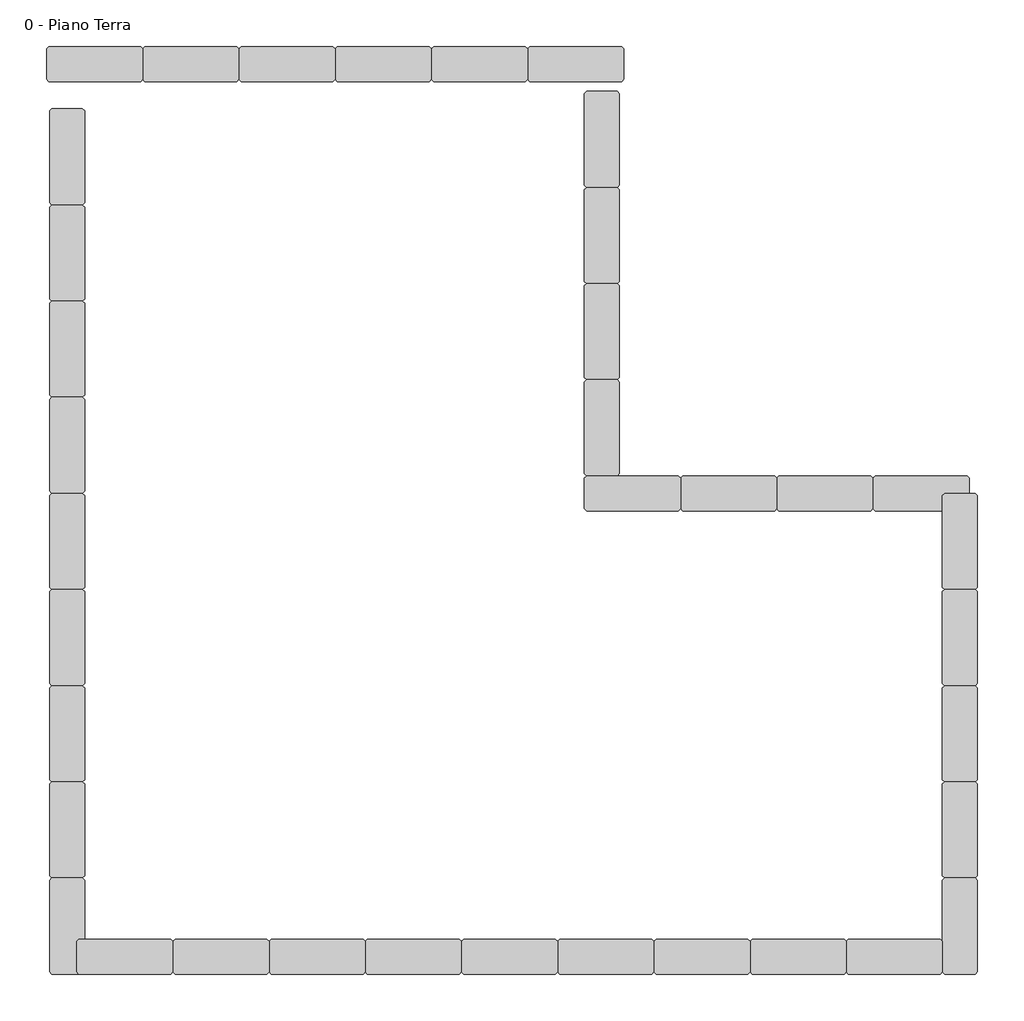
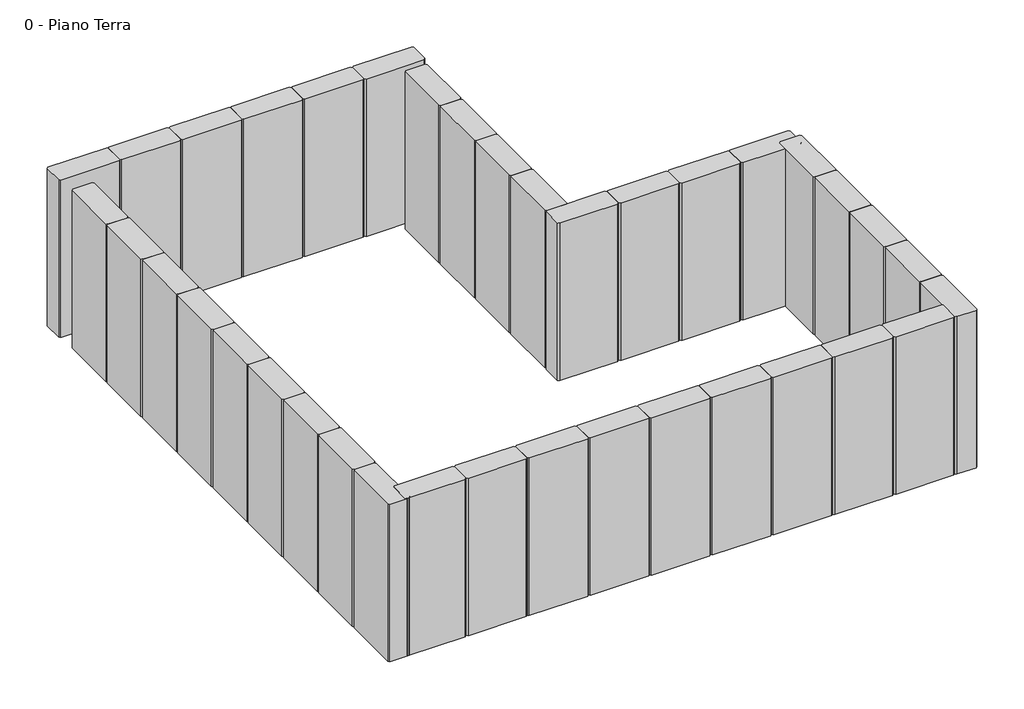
# One storey: 37 columns.
"""IFC4 building model written with IfcOpenShell, lengths in millimetres."""

from ifc_helpers import new_model, si_unit, origin, place, context, project, spatial, transform, mapped, element, save
from components import column_70e239fd

model = new_model("IFC4")

# Units and contexts
model_context = context("Model", 3, world=origin())
ifc_project = project(units=[si_unit("LENGTHUNIT", "METRE", prefix="MILLI")], contexts=[model_context])

# Site, building, storey
site = spatial("IfcSite", under=ifc_project)
building = spatial("IfcBuilding", under=site)
storey = spatial("IfcBuildingStorey", under=building, Name="0 - Piano Terra", Elevation=0.0)

# Columns
placement = place(None, origin())
column_shape = column_70e239fd(model_context)
element("IfcColumn", 1, ObjectType="ITA-Diaframma : ITA-Diaframma", at=placement, inside=storey, context=model_context, shape_type="MappedRepresentation", body=[
    mapped(column_shape, transform((-18257.5089367, -15345.7761472, 0.0), x_axis=(1.0, 0.0, 0.0), y_axis=(0.0, 1.0, 0.0), z_axis=(0.0, 0.0, 1.0))),
])
element("IfcColumn", 2, ObjectType="ITA-Diaframma : ITA-Diaframma", at=placement, inside=storey, context=model_context, shape_type="MappedRepresentation", body=[
    mapped(column_shape, transform((-18257.5089367, -13145.7761472, 0.0), x_axis=(1.0, 0.0, 0.0), y_axis=(0.0, 1.0, 0.0), z_axis=(0.0, 0.0, 1.0))),
])
element("IfcColumn", 3, ObjectType="ITA-Diaframma : ITA-Diaframma", at=placement, inside=storey, context=model_context, shape_type="MappedRepresentation", body=[
    mapped(column_shape, transform((-18257.5089367, -10945.7761472, 0.0), x_axis=(1.0, 0.0, 0.0), y_axis=(0.0, 1.0, 0.0), z_axis=(0.0, 0.0, 1.0))),
])
element("IfcColumn", 4, ObjectType="ITA-Diaframma : ITA-Diaframma", at=placement, inside=storey, context=model_context, shape_type="MappedRepresentation", body=[
    mapped(column_shape, transform((-18257.5089367, -8745.7761472, 0.0), x_axis=(1.0, 0.0, 0.0), y_axis=(0.0, 1.0, 0.0), z_axis=(0.0, 0.0, 1.0))),
])
element("IfcColumn", 5, ObjectType="ITA-Diaframma : ITA-Diaframma", at=placement, inside=storey, context=model_context, shape_type="MappedRepresentation", body=[
    mapped(column_shape, transform((-18257.5089367, -6545.7761472, 0.0), x_axis=(1.0, 0.0, 0.0), y_axis=(0.0, 1.0, 0.0), z_axis=(0.0, 0.0, 1.0))),
])
element("IfcColumn", 6, ObjectType="ITA-Diaframma : ITA-Diaframma", at=placement, inside=storey, context=model_context, shape_type="MappedRepresentation", body=[
    mapped(column_shape, transform((-18257.5089367, -4345.7761472, 0.0), x_axis=(1.0, 0.0, 0.0), y_axis=(0.0, 1.0, 0.0), z_axis=(0.0, 0.0, 1.0))),
])
element("IfcColumn", 7, ObjectType="ITA-Diaframma : ITA-Diaframma", at=placement, inside=storey, context=model_context, shape_type="MappedRepresentation", body=[
    mapped(column_shape, transform((-18257.5089367, -2145.7761472, 0.0), x_axis=(1.0, 0.0, 0.0), y_axis=(0.0, 1.0, 0.0), z_axis=(0.0, 0.0, 1.0))),
])
element("IfcColumn", 8, ObjectType="ITA-Diaframma : ITA-Diaframma", at=placement, inside=storey, context=model_context, shape_type="MappedRepresentation", body=[
    mapped(column_shape, transform((-18257.5089367, 54.2238528, 0.0), x_axis=(1.0, 0.0, 0.0), y_axis=(0.0, 1.0, 0.0), z_axis=(0.0, 0.0, 1.0))),
])
element("IfcColumn", 9, ObjectType="ITA-Diaframma : ITA-Diaframma", at=placement, inside=storey, context=model_context, shape_type="MappedRepresentation", body=[
    mapped(column_shape, transform((-18257.5089367, 2254.2238528, 0.0), x_axis=(1.0, 0.0, 0.0), y_axis=(0.0, 1.0, 0.0), z_axis=(0.0, 0.0, 1.0))),
])
element("IfcColumn", 10, ObjectType="ITA-Diaframma : ITA-Diaframma", at=placement, inside=storey, context=model_context, shape_type="MappedRepresentation", body=[
    mapped(column_shape, transform((-16937.6292616, -16045.7761472, 0.0), x_axis=(0.0, -1.0000000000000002, 0.0), y_axis=(1.0000000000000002, 0.0, 0.0), z_axis=(0.0, 0.0, 1.0))),
])
element("IfcColumn", 11, ObjectType="ITA-Diaframma : ITA-Diaframma", at=placement, inside=storey, context=model_context, shape_type="MappedRepresentation", body=[
    mapped(column_shape, transform((-14737.6292616, -16045.7761472, 0.0), x_axis=(0.0, -1.0000000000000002, 0.0), y_axis=(1.0000000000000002, 0.0, 0.0), z_axis=(0.0, 0.0, 1.0))),
])
element("IfcColumn", 12, ObjectType="ITA-Diaframma : ITA-Diaframma", at=placement, inside=storey, context=model_context, shape_type="MappedRepresentation", body=[
    mapped(column_shape, transform((-12537.6292616, -16045.7761472, 0.0), x_axis=(0.0, -1.0000000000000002, 0.0), y_axis=(1.0000000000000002, 0.0, 0.0), z_axis=(0.0, 0.0, 1.0))),
])
element("IfcColumn", 13, ObjectType="ITA-Diaframma : ITA-Diaframma", at=placement, inside=storey, context=model_context, shape_type="MappedRepresentation", body=[
    mapped(column_shape, transform((-10337.6292616, -16045.7761472, 0.0), x_axis=(0.0, -1.0000000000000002, 0.0), y_axis=(1.0000000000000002, 0.0, 0.0), z_axis=(0.0, 0.0, 1.0))),
])
element("IfcColumn", 14, ObjectType="ITA-Diaframma : ITA-Diaframma", at=placement, inside=storey, context=model_context, shape_type="MappedRepresentation", body=[
    mapped(column_shape, transform((-8137.6292616, -16045.7761472, 0.0), x_axis=(0.0, -1.0000000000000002, 0.0), y_axis=(1.0000000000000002, 0.0, 0.0), z_axis=(0.0, 0.0, 1.0))),
])
element("IfcColumn", 15, ObjectType="ITA-Diaframma : ITA-Diaframma", at=placement, inside=storey, context=model_context, shape_type="MappedRepresentation", body=[
    mapped(column_shape, transform((-5937.6292616, -16045.7761472, 0.0), x_axis=(0.0, -1.0000000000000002, 0.0), y_axis=(1.0000000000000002, 0.0, 0.0), z_axis=(0.0, 0.0, 1.0))),
])
element("IfcColumn", 16, ObjectType="ITA-Diaframma : ITA-Diaframma", at=placement, inside=storey, context=model_context, shape_type="MappedRepresentation", body=[
    mapped(column_shape, transform((-3737.6292616, -16045.7761472, 0.0), x_axis=(0.0, -1.0000000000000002, 0.0), y_axis=(1.0000000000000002, 0.0, 0.0), z_axis=(0.0, 0.0, 1.0))),
])
element("IfcColumn", 17, ObjectType="ITA-Diaframma : ITA-Diaframma", at=placement, inside=storey, context=model_context, shape_type="MappedRepresentation", body=[
    mapped(column_shape, transform((-1537.6292616, -16045.7761472, 0.0), x_axis=(0.0, -1.0000000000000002, 0.0), y_axis=(1.0000000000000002, 0.0, 0.0), z_axis=(0.0, 0.0, 1.0))),
])
element("IfcColumn", 18, ObjectType="ITA-Diaframma : ITA-Diaframma", at=placement, inside=storey, context=model_context, shape_type="MappedRepresentation", body=[
    mapped(column_shape, transform((662.3707384, -16045.7761472, 0.0), x_axis=(0.0, -1.0000000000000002, 0.0), y_axis=(1.0000000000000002, 0.0, 0.0), z_axis=(0.0, 0.0, 1.0))),
])
element("IfcColumn", 19, ObjectType="ITA-Diaframma : ITA-Diaframma", at=placement, inside=storey, context=model_context, shape_type="MappedRepresentation", body=[
    mapped(column_shape, transform((2162.3707384, -15345.7761472, 0.0), x_axis=(1.0, 0.0, 0.0), y_axis=(0.0, 1.0, 0.0), z_axis=(0.0, 0.0, 1.0))),
])
element("IfcColumn", 20, ObjectType="ITA-Diaframma : ITA-Diaframma", at=placement, inside=storey, context=model_context, shape_type="MappedRepresentation", body=[
    mapped(column_shape, transform((2162.3707384, -13145.7761472, 0.0), x_axis=(1.0, 0.0, 0.0), y_axis=(0.0, 1.0, 0.0), z_axis=(0.0, 0.0, 1.0))),
])
element("IfcColumn", 21, ObjectType="ITA-Diaframma : ITA-Diaframma", at=placement, inside=storey, context=model_context, shape_type="MappedRepresentation", body=[
    mapped(column_shape, transform((2162.3707384, -10945.7761472, 0.0), x_axis=(1.0, 0.0, 0.0), y_axis=(0.0, 1.0, 0.0), z_axis=(0.0, 0.0, 1.0))),
])
element("IfcColumn", 22, ObjectType="ITA-Diaframma : ITA-Diaframma", at=placement, inside=storey, context=model_context, shape_type="MappedRepresentation", body=[
    mapped(column_shape, transform((2162.3707384, -8745.7761472, 0.0), x_axis=(1.0, 0.0, 0.0), y_axis=(0.0, 1.0, 0.0), z_axis=(0.0, 0.0, 1.0))),
])
element("IfcColumn", 23, ObjectType="ITA-Diaframma : ITA-Diaframma", at=placement, inside=storey, context=model_context, shape_type="MappedRepresentation", body=[
    mapped(column_shape, transform((2162.3707384, -6545.7761472, 0.0), x_axis=(1.0, 0.0, 0.0), y_axis=(0.0, 1.0, 0.0), z_axis=(0.0, 0.0, 1.0))),
])
element("IfcColumn", 24, ObjectType="ITA-Diaframma : ITA-Diaframma", at=placement, inside=storey, context=model_context, shape_type="MappedRepresentation", body=[
    mapped(column_shape, transform((-5326.5891533, -5445.9559577, 0.0), x_axis=(0.0, -1.0000000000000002, 0.0), y_axis=(1.0000000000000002, 0.0, 0.0), z_axis=(0.0, 0.0, 1.0))),
])
element("IfcColumn", 25, ObjectType="ITA-Diaframma : ITA-Diaframma", at=placement, inside=storey, context=model_context, shape_type="MappedRepresentation", body=[
    mapped(column_shape, transform((-3126.5891533, -5445.9559577, 0.0), x_axis=(0.0, -1.0000000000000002, 0.0), y_axis=(1.0000000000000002, 0.0, 0.0), z_axis=(0.0, 0.0, 1.0))),
])
element("IfcColumn", 26, ObjectType="ITA-Diaframma : ITA-Diaframma", at=placement, inside=storey, context=model_context, shape_type="MappedRepresentation", body=[
    mapped(column_shape, transform((-926.5891533, -5445.9559577, 0.0), x_axis=(0.0, -1.0000000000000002, 0.0), y_axis=(1.0000000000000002, 0.0, 0.0), z_axis=(0.0, 0.0, 1.0))),
])
element("IfcColumn", 27, ObjectType="ITA-Diaframma : ITA-Diaframma", at=placement, inside=storey, context=model_context, shape_type="MappedRepresentation", body=[
    mapped(column_shape, transform((1273.4108467, -5445.9559577, 0.0), x_axis=(0.0, -1.0000000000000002, 0.0), y_axis=(1.0000000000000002, 0.0, 0.0), z_axis=(0.0, 0.0, 1.0))),
])
element("IfcColumn", 28, ObjectType="ITA-Diaframma : ITA-Diaframma", at=placement, inside=storey, context=model_context, shape_type="MappedRepresentation", body=[
    mapped(column_shape, transform((-6026.5891533, -3945.9559577, 0.0), x_axis=(1.0, 0.0, 0.0), y_axis=(0.0, 1.0, 0.0), z_axis=(0.0, 0.0, 1.0))),
])
element("IfcColumn", 29, ObjectType="ITA-Diaframma : ITA-Diaframma", at=placement, inside=storey, context=model_context, shape_type="MappedRepresentation", body=[
    mapped(column_shape, transform((-6026.5891533, -1745.9559577, 0.0), x_axis=(1.0, 0.0, 0.0), y_axis=(0.0, 1.0, 0.0), z_axis=(0.0, 0.0, 1.0))),
])
element("IfcColumn", 30, ObjectType="ITA-Diaframma : ITA-Diaframma", at=placement, inside=storey, context=model_context, shape_type="MappedRepresentation", body=[
    mapped(column_shape, transform((-6026.5891533, 454.0440423, 0.0), x_axis=(1.0, 0.0, 0.0), y_axis=(0.0, 1.0, 0.0), z_axis=(0.0, 0.0, 1.0))),
])
element("IfcColumn", 31, ObjectType="ITA-Diaframma : ITA-Diaframma", at=placement, inside=storey, context=model_context, shape_type="MappedRepresentation", body=[
    mapped(column_shape, transform((-6026.5891533, 2654.0440423, 0.0), x_axis=(1.0, 0.0, 0.0), y_axis=(0.0, 1.0, 0.0), z_axis=(0.0, 0.0, 1.0))),
])
element("IfcColumn", 32, ObjectType="ITA-Diaframma : ITA-Diaframma", at=placement, inside=storey, context=model_context, shape_type="MappedRepresentation", body=[
    mapped(column_shape, transform((-15426.5891533, 4378.003934, 0.0), x_axis=(0.0, -1.0000000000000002, 0.0), y_axis=(1.0000000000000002, 0.0, 0.0), z_axis=(0.0, 0.0, 1.0))),
])
element("IfcColumn", 33, ObjectType="ITA-Diaframma : ITA-Diaframma", at=placement, inside=storey, context=model_context, shape_type="MappedRepresentation", body=[
    mapped(column_shape, transform((-13226.5891533, 4378.003934, 0.0), x_axis=(0.0, -1.0000000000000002, 0.0), y_axis=(1.0000000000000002, 0.0, 0.0), z_axis=(0.0, 0.0, 1.0))),
])
element("IfcColumn", 34, ObjectType="ITA-Diaframma : ITA-Diaframma", at=placement, inside=storey, context=model_context, shape_type="MappedRepresentation", body=[
    mapped(column_shape, transform((-11026.5891533, 4378.003934, 0.0), x_axis=(0.0, -1.0000000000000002, 0.0), y_axis=(1.0000000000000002, 0.0, 0.0), z_axis=(0.0, 0.0, 1.0))),
])
element("IfcColumn", 35, ObjectType="ITA-Diaframma : ITA-Diaframma", at=placement, inside=storey, context=model_context, shape_type="MappedRepresentation", body=[
    mapped(column_shape, transform((-8826.5891533, 4378.003934, 0.0), x_axis=(0.0, -1.0000000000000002, 0.0), y_axis=(1.0000000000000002, 0.0, 0.0), z_axis=(0.0, 0.0, 1.0))),
])
element("IfcColumn", 36, ObjectType="ITA-Diaframma : ITA-Diaframma", at=placement, inside=storey, context=model_context, shape_type="MappedRepresentation", body=[
    mapped(column_shape, transform((-6626.5891533, 4378.003934, 0.0), x_axis=(0.0, -1.0000000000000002, 0.0), y_axis=(1.0000000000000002, 0.0, 0.0), z_axis=(0.0, 0.0, 1.0))),
])
element("IfcColumn", 37, ObjectType="ITA-Diaframma : ITA-Diaframma", at=placement, inside=storey, context=model_context, shape_type="MappedRepresentation", body=[
    mapped(column_shape, transform((-17626.5891533, 4378.003934, 0.0), x_axis=(0.0, -1.0000000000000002, 0.0), y_axis=(1.0000000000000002, 0.0, 0.0), z_axis=(0.0, 0.0, 1.0))),
])

save(model, "model.ifc")
